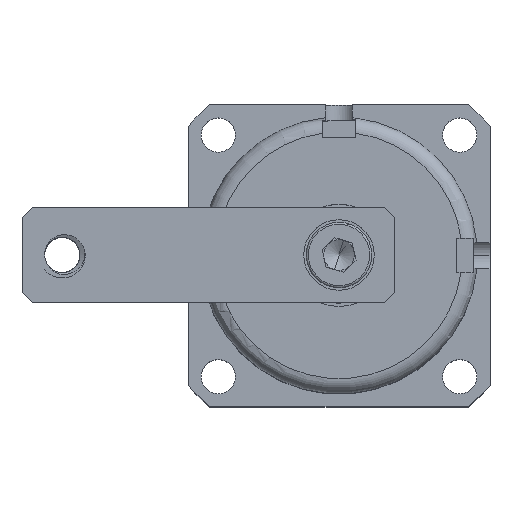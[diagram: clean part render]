
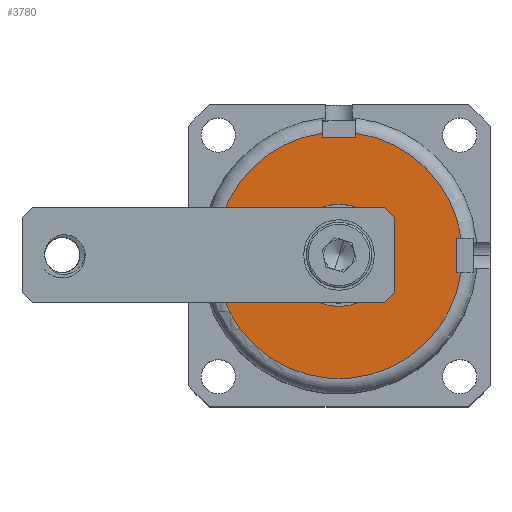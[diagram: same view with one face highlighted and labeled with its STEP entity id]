
A CAD part, top view. The second image highlights one B-rep face of the part: STEP entity #3780.
In plain terms, the highlighted planar face has unit normal (0, 0, 1).
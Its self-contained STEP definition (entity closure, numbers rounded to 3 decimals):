
#1170 = EDGE_LOOP ( 'NONE', ( #5619, #5621, #5620, #5622, #5623, #5624, #5625, #5626, #5627, #5628, #5629, #5630 ) ) ;
#1171 = EDGE_LOOP ( 'NONE', ( #5632, #5633 ) ) ;
#3661 = EDGE_CURVE ( 'NONE', #4685, #4686, #7130, .T. ) ;
#3780 = ADVANCED_FACE ( 'NONE', ( #21977, #21982 ), #22942, .T. ) ;
#3919 = EDGE_CURVE ( 'NONE', #4835, #4834, #26003, .T. ) ;
#3934 = EDGE_CURVE ( 'NONE', #4848, #4847, #26374, .T. ) ;
#3935 = EDGE_CURVE ( 'NONE', #4846, #4847, #26377, .T. ) ;
#3936 = EDGE_CURVE ( 'NONE', #4848, #4849, #26008, .T. ) ;
#3937 = EDGE_CURVE ( 'NONE', #4849, #4850, #26383, .T. ) ;
#3938 = EDGE_CURVE ( 'NONE', #4850, #4851, #26386, .T. ) ;
#3939 = EDGE_CURVE ( 'NONE', #4851, #4852, #26389, .T. ) ;
#3940 = EDGE_CURVE ( 'NONE', #4852, #4853, #26009, .T. ) ;
#3941 = EDGE_CURVE ( 'NONE', #4854, #4853, #26395, .T. ) ;
#3942 = EDGE_CURVE ( 'NONE', #4854, #4855, #26398, .T. ) ;
#3943 = EDGE_CURVE ( 'NONE', #4835, #4855, #26401, .T. ) ;
#3944 = EDGE_CURVE ( 'NONE', #4846, #4834, #26404, .T. ) ;
#3945 = EDGE_CURVE ( 'NONE', #4686, #4685, #26010, .T. ) ;
#4685 = VERTEX_POINT ( 'NONE', #28858 ) ;
#4686 = VERTEX_POINT ( 'NONE', #28859 ) ;
#4834 = VERTEX_POINT ( 'NONE', #28981 ) ;
#4835 = VERTEX_POINT ( 'NONE', #28982 ) ;
#4846 = VERTEX_POINT ( 'NONE', #28993 ) ;
#4847 = VERTEX_POINT ( 'NONE', #28994 ) ;
#4848 = VERTEX_POINT ( 'NONE', #28995 ) ;
#4849 = VERTEX_POINT ( 'NONE', #28996 ) ;
#4850 = VERTEX_POINT ( 'NONE', #28997 ) ;
#4851 = VERTEX_POINT ( 'NONE', #28998 ) ;
#4852 = VERTEX_POINT ( 'NONE', #28999 ) ;
#4853 = VERTEX_POINT ( 'NONE', #29000 ) ;
#4854 = VERTEX_POINT ( 'NONE', #29001 ) ;
#4855 = VERTEX_POINT ( 'NONE', #29002 ) ;
#5619 = ORIENTED_EDGE ( 'NONE', *, *, #3935, .T. ) ;
#5620 = ORIENTED_EDGE ( 'NONE', *, *, #3936, .T. ) ;
#5621 = ORIENTED_EDGE ( 'NONE', *, *, #3934, .F. ) ;
#5622 = ORIENTED_EDGE ( 'NONE', *, *, #3937, .T. ) ;
#5623 = ORIENTED_EDGE ( 'NONE', *, *, #3938, .T. ) ;
#5624 = ORIENTED_EDGE ( 'NONE', *, *, #3939, .T. ) ;
#5625 = ORIENTED_EDGE ( 'NONE', *, *, #3940, .T. ) ;
#5626 = ORIENTED_EDGE ( 'NONE', *, *, #3941, .F. ) ;
#5627 = ORIENTED_EDGE ( 'NONE', *, *, #3942, .T. ) ;
#5628 = ORIENTED_EDGE ( 'NONE', *, *, #3943, .F. ) ;
#5629 = ORIENTED_EDGE ( 'NONE', *, *, #3919, .T. ) ;
#5630 = ORIENTED_EDGE ( 'NONE', *, *, #3944, .F. ) ;
#5632 = ORIENTED_EDGE ( 'NONE', *, *, #3945, .F. ) ;
#5633 = ORIENTED_EDGE ( 'NONE', *, *, #3661, .F. ) ;
#7130 = CIRCLE ( 'NONE', #21793, 10.15 ) ;
#21465 = CARTESIAN_POINT ( 'NONE',  ( 0., 0., 83. ) ) ;
#21466 = DIRECTION ( 'NONE',  ( 0., 0., 1. ) ) ;
#21467 = DIRECTION ( 'NONE',  ( 1., 0., 0. ) ) ;
#21793 = AXIS2_PLACEMENT_3D ( 'NONE', #21465, #21466, #21467 ) ;
#21977 = FACE_OUTER_BOUND ( 'NONE', #1170, .T. ) ;
#21982 = FACE_BOUND ( 'NONE', #1171, .T. ) ;
#21984 = AXIS2_PLACEMENT_3D ( 'NONE', #22943, #22944, #22945 ) ;
#22158 = AXIS2_PLACEMENT_3D ( 'NONE', #25976, #25977, #25978 ) ;
#22166 = AXIS2_PLACEMENT_3D ( 'NONE', #26382, #26392, #26393 ) ;
#22170 = AXIS2_PLACEMENT_3D ( 'NONE', #26367, #26380, #26381 ) ;
#22171 = VECTOR ( 'NONE', #26376, 1000. ) ;
#22172 = VECTOR ( 'NONE', #26379, 1000. ) ;
#22173 = VECTOR ( 'NONE', #26385, 1000. ) ;
#22174 = VECTOR ( 'NONE', #26388, 1000. ) ;
#22176 = VECTOR ( 'NONE', #26391, 1000. ) ;
#22177 = AXIS2_PLACEMENT_3D ( 'NONE', #26394, #26407, #26408 ) ;
#22178 = VECTOR ( 'NONE', #26397, 1000. ) ;
#22179 = VECTOR ( 'NONE', #26400, 1000. ) ;
#22180 = VECTOR ( 'NONE', #26403, 1000. ) ;
#22182 = VECTOR ( 'NONE', #26406, 1000. ) ;
#22942 = PLANE ( 'NONE',  #21984 ) ;
#22943 = CARTESIAN_POINT ( 'NONE',  ( 0., 0., 83. ) ) ;
#22944 = DIRECTION ( 'NONE',  ( 0., 0., 1. ) ) ;
#22945 = DIRECTION ( 'NONE',  ( 1., 0., 0. ) ) ;
#25976 = CARTESIAN_POINT ( 'NONE',  ( 0., 0., 83. ) ) ;
#25977 = DIRECTION ( 'NONE',  ( 0., 0., 1. ) ) ;
#25978 = DIRECTION ( 'NONE',  ( 1., 0., 0. ) ) ;
#26003 = CIRCLE ( 'NONE', #22158, 24.5 ) ;
#26008 = CIRCLE ( 'NONE', #22170, 24.5 ) ;
#26009 = CIRCLE ( 'NONE', #22166, 24.5 ) ;
#26010 = CIRCLE ( 'NONE', #22177, 10.15 ) ;
#26367 = CARTESIAN_POINT ( 'NONE',  ( 0., 0., 83. ) ) ;
#26374 = LINE ( 'NONE', #26375, #22171 ) ;
#26375 = CARTESIAN_POINT ( 'NONE',  ( -3.3, 23.4, 83. ) ) ;
#26376 = DIRECTION ( 'NONE',  ( 0., -1., 0. ) ) ;
#26377 = LINE ( 'NONE', #26378, #22172 ) ;
#26378 = CARTESIAN_POINT ( 'NONE',  ( 0., 23.4, 83. ) ) ;
#26379 = DIRECTION ( 'NONE',  ( -1., 0., 0. ) ) ;
#26380 = DIRECTION ( 'NONE',  ( 0., 0., 1. ) ) ;
#26381 = DIRECTION ( 'NONE',  ( 1., 0., 0. ) ) ;
#26382 = CARTESIAN_POINT ( 'NONE',  ( 0., 0., 83. ) ) ;
#26383 = LINE ( 'NONE', #26384, #22173 ) ;
#26384 = CARTESIAN_POINT ( 'NONE',  ( -26.8, 3.4, 83. ) ) ;
#26385 = DIRECTION ( 'NONE',  ( 1., 0., 0. ) ) ;
#26386 = LINE ( 'NONE', #26387, #22174 ) ;
#26387 = CARTESIAN_POINT ( 'NONE',  ( -23.4, 0., 83. ) ) ;
#26388 = DIRECTION ( 'NONE',  ( 0., -1., 0. ) ) ;
#26389 = LINE ( 'NONE', #26390, #22176 ) ;
#26390 = CARTESIAN_POINT ( 'NONE',  ( -23.4, -3.4, 83. ) ) ;
#26391 = DIRECTION ( 'NONE',  ( -1., 0., 0. ) ) ;
#26392 = DIRECTION ( 'NONE',  ( 0., 0., 1. ) ) ;
#26393 = DIRECTION ( 'NONE',  ( 1., 0., 0. ) ) ;
#26394 = CARTESIAN_POINT ( 'NONE',  ( 0., 0., 83. ) ) ;
#26395 = LINE ( 'NONE', #26396, #22178 ) ;
#26396 = CARTESIAN_POINT ( 'NONE',  ( 23.4, -3.4, 83. ) ) ;
#26397 = DIRECTION ( 'NONE',  ( 1., 0., 0. ) ) ;
#26398 = LINE ( 'NONE', #26399, #22179 ) ;
#26399 = CARTESIAN_POINT ( 'NONE',  ( 23.4, 0., 83. ) ) ;
#26400 = DIRECTION ( 'NONE',  ( 0., 1., 0. ) ) ;
#26401 = LINE ( 'NONE', #26402, #22180 ) ;
#26402 = CARTESIAN_POINT ( 'NONE',  ( 26.8, 3.4, 83. ) ) ;
#26403 = DIRECTION ( 'NONE',  ( -1., 0., 0. ) ) ;
#26404 = LINE ( 'NONE', #26405, #22182 ) ;
#26405 = CARTESIAN_POINT ( 'NONE',  ( 3.3, 26.94, 83. ) ) ;
#26406 = DIRECTION ( 'NONE',  ( 0., 1., 0. ) ) ;
#26407 = DIRECTION ( 'NONE',  ( 0., 0., 1. ) ) ;
#26408 = DIRECTION ( 'NONE',  ( 1., 0., 0. ) ) ;
#28858 = CARTESIAN_POINT ( 'NONE',  ( -10.15, 0., 83. ) ) ;
#28859 = CARTESIAN_POINT ( 'NONE',  ( 10.15, 0., 83. ) ) ;
#28981 = CARTESIAN_POINT ( 'NONE',  ( 3.3, 24.277, 83. ) ) ;
#28982 = CARTESIAN_POINT ( 'NONE',  ( 24.263, 3.4, 83. ) ) ;
#28993 = CARTESIAN_POINT ( 'NONE',  ( 3.3, 23.4, 83. ) ) ;
#28994 = CARTESIAN_POINT ( 'NONE',  ( -3.3, 23.4, 83. ) ) ;
#28995 = CARTESIAN_POINT ( 'NONE',  ( -3.3, 24.277, 83. ) ) ;
#28996 = CARTESIAN_POINT ( 'NONE',  ( -24.263, 3.4, 83. ) ) ;
#28997 = CARTESIAN_POINT ( 'NONE',  ( -23.4, 3.4, 83. ) ) ;
#28998 = CARTESIAN_POINT ( 'NONE',  ( -23.4, -3.4, 83. ) ) ;
#28999 = CARTESIAN_POINT ( 'NONE',  ( -24.263, -3.4, 83. ) ) ;
#29000 = CARTESIAN_POINT ( 'NONE',  ( 24.263, -3.4, 83. ) ) ;
#29001 = CARTESIAN_POINT ( 'NONE',  ( 23.4, -3.4, 83. ) ) ;
#29002 = CARTESIAN_POINT ( 'NONE',  ( 23.4, 3.4, 83. ) ) ;
